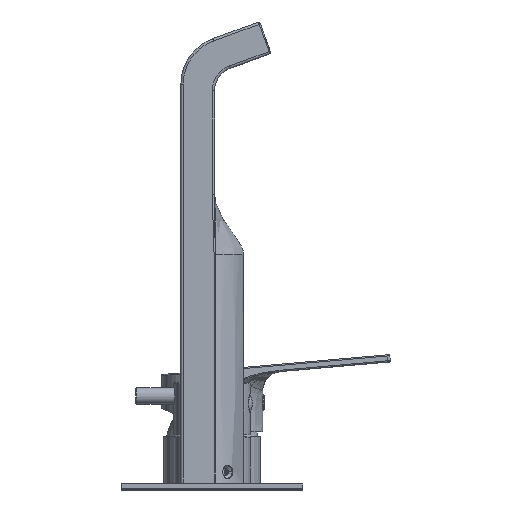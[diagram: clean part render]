
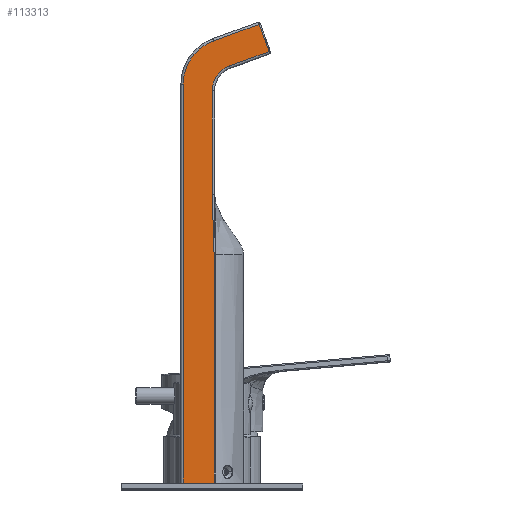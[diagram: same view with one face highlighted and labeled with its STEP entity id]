
A CAD part, top view. The second image highlights one B-rep face of the part: STEP entity #113313.
In plain terms, the highlighted planar face has unit normal (0, 0, 1).
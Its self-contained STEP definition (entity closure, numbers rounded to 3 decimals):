
#96145=DIRECTION('',(-1.,0.,0.));
#96146=VECTOR('',#96145,12.774);
#96147=CARTESIAN_POINT('',(0.774,77.,128.));
#96148=LINE('',#96147,#96146);
#96149=DIRECTION('',(0.,1.,0.));
#96150=VECTOR('',#96149,165.706);
#96151=CARTESIAN_POINT('',(-12.,77.,128.));
#96152=LINE('',#96151,#96150);
#96153=CARTESIAN_POINT('',(7.,242.706,128.));
#96154=DIRECTION('',(0.,0.,-1.));
#96155=DIRECTION('',(-1.,0.,0.));
#96156=AXIS2_PLACEMENT_3D('',#96153,#96154,#96155);
#96158=DIRECTION('',(0.94,0.342,0.));
#96159=VECTOR('',#96158,20.194);
#96160=CARTESIAN_POINT('',(0.502,260.56,128.));
#96161=LINE('',#96160,#96159);
#96162=DIRECTION('',(0.342,-0.94,0.));
#96163=VECTOR('',#96162,12.);
#96164=CARTESIAN_POINT('',(19.478,267.467,128.));
#96165=LINE('',#96164,#96163);
#96166=DIRECTION('',(0.94,0.342,0.));
#96167=VECTOR('',#96166,17.393);
#96168=CARTESIAN_POINT('',(7.238,250.242,128.));
#96169=LINE('',#96168,#96167);
#96170=CARTESIAN_POINT('',(11.,239.905,128.));
#96171=DIRECTION('',(0.,0.,-1.));
#96172=DIRECTION('',(-1.,0.,0.));
#96173=AXIS2_PLACEMENT_3D('',#96170,#96171,#96172);
#96175=DIRECTION('',(0.,1.,0.));
#96176=VECTOR('',#96175,42.905);
#96177=CARTESIAN_POINT('',(0.,197.,128.));
#96178=LINE('',#96177,#96176);
#96179=CARTESIAN_POINT('',(0.774,172.,128.));
#96180=CARTESIAN_POINT('',(0.774,173.012,128.));
#96181=CARTESIAN_POINT('',(0.764,174.93,128.));
#96182=CARTESIAN_POINT('',(0.726,177.462,128.));
#96183=CARTESIAN_POINT('',(0.674,179.721,128.));
#96184=CARTESIAN_POINT('',(0.61,181.739,128.));
#96185=CARTESIAN_POINT('',(0.538,183.545,128.));
#96186=CARTESIAN_POINT('',(0.462,185.17,128.));
#96187=CARTESIAN_POINT('',(0.385,186.636,128.));
#96188=CARTESIAN_POINT('',(0.313,187.963,128.));
#96189=CARTESIAN_POINT('',(0.246,189.179,128.));
#96190=CARTESIAN_POINT('',(0.188,190.289,128.));
#96191=CARTESIAN_POINT('',(0.14,191.286,128.));
#96192=CARTESIAN_POINT('',(0.101,192.176,128.));
#96193=CARTESIAN_POINT('',(0.07,192.999,128.));
#96194=CARTESIAN_POINT('',(0.044,193.789,128.));
#96195=CARTESIAN_POINT('',(0.025,194.587,128.));
#96196=CARTESIAN_POINT('',(0.01,195.394,128.));
#96197=CARTESIAN_POINT('',(0.002,196.201,128.));
#96198=CARTESIAN_POINT('',(0.,196.734,128.));
#96199=CARTESIAN_POINT('',(0.,197.,128.));
#96201=CARTESIAN_POINT('',(0.774,77.,128.));
#96202=CARTESIAN_POINT('',(0.774,108.667,128.));
#96203=CARTESIAN_POINT('',(0.774,140.333,128.));
#96204=CARTESIAN_POINT('',(0.774,172.,128.));
#108418=CARTESIAN_POINT('',(0.,239.905,128.));
#108419=CARTESIAN_POINT('',(7.238,250.242,128.));
#108420=VERTEX_POINT('',#108418);
#108421=VERTEX_POINT('',#108419);
#108426=CARTESIAN_POINT('',(0.,197.,128.));
#108427=VERTEX_POINT('',#108426);
#108430=VERTEX_POINT('',#96179);
#108450=CARTESIAN_POINT('',(-12.,242.706,128.));
#108451=CARTESIAN_POINT('',(0.502,260.56,128.));
#108452=VERTEX_POINT('',#108450);
#108453=VERTEX_POINT('',#108451);
#108466=CARTESIAN_POINT('',(23.582,256.191,128.));
#108468=VERTEX_POINT('',#108466);
#108492=CARTESIAN_POINT('',(19.478,267.467,128.));
#108493=VERTEX_POINT('',#108492);
#108712=CARTESIAN_POINT('',(0.774,77.,128.));
#108713=CARTESIAN_POINT('',(-12.,77.,128.));
#108714=VERTEX_POINT('',#108712);
#108715=VERTEX_POINT('',#108713);
#113287=CARTESIAN_POINT('',(24.394,255.422,128.));
#113288=DIRECTION('',(0.,0.,1.));
#113289=DIRECTION('',(-0.342,0.94,0.));
#113290=AXIS2_PLACEMENT_3D('',#113287,#113288,#113289);
#113291=PLANE('',#113290);
#113293=ORIENTED_EDGE('',*,*,#113292,.T.);
#113295=ORIENTED_EDGE('',*,*,#113294,.T.);
#113297=ORIENTED_EDGE('',*,*,#113296,.T.);
#113299=ORIENTED_EDGE('',*,*,#113298,.T.);
#113300=ORIENTED_EDGE('',*,*,#113281,.T.);
#113302=ORIENTED_EDGE('',*,*,#113301,.F.);
#113304=ORIENTED_EDGE('',*,*,#113303,.F.);
#113306=ORIENTED_EDGE('',*,*,#113305,.F.);
#113308=ORIENTED_EDGE('',*,*,#113307,.F.);
#113310=ORIENTED_EDGE('',*,*,#113309,.F.);
#113311=EDGE_LOOP('',(#113293,#113295,#113297,#113299,#113300,#113302,#113304,
#113306,#113308,#113310));
#113312=FACE_OUTER_BOUND('',#113311,.F.);
#113313=ADVANCED_FACE('',(#113312),#113291,.T.);
#96157=CIRCLE('',#96156,19.);
#96174=CIRCLE('',#96173,11.);
#96200=B_SPLINE_CURVE_WITH_KNOTS('',3,(#96179,#96180,#96181,#96182,#96183,
#96184,#96185,#96186,#96187,#96188,#96189,#96190,#96191,#96192,#96193,#96194,
#96195,#96196,#96197,#96198,#96199),.UNSPECIFIED.,.F.,.F.,(4,1,1,1,1,1,1,1,1,1,
1,1,1,1,1,1,1,1,4),(0.,0.056,0.111,0.167,
0.222,0.278,0.333,0.389,
0.444,0.5,0.556,0.611,0.667,
0.722,0.778,0.833,0.889,
0.944,1.),.UNSPECIFIED.);
#96205=B_SPLINE_CURVE_WITH_KNOTS('',3,(#96201,#96202,#96203,#96204),
.UNSPECIFIED.,.F.,.F.,(4,4),(0.,1.),.UNSPECIFIED.);
#113281=EDGE_CURVE('',#108493,#108468,#96165,.T.);
#113292=EDGE_CURVE('',#108714,#108715,#96148,.T.);
#113294=EDGE_CURVE('',#108715,#108452,#96152,.T.);
#113296=EDGE_CURVE('',#108452,#108453,#96157,.T.);
#113298=EDGE_CURVE('',#108453,#108493,#96161,.T.);
#113301=EDGE_CURVE('',#108421,#108468,#96169,.T.);
#113303=EDGE_CURVE('',#108420,#108421,#96174,.T.);
#113305=EDGE_CURVE('',#108427,#108420,#96178,.T.);
#113307=EDGE_CURVE('',#108430,#108427,#96200,.T.);
#113309=EDGE_CURVE('',#108714,#108430,#96205,.T.);
